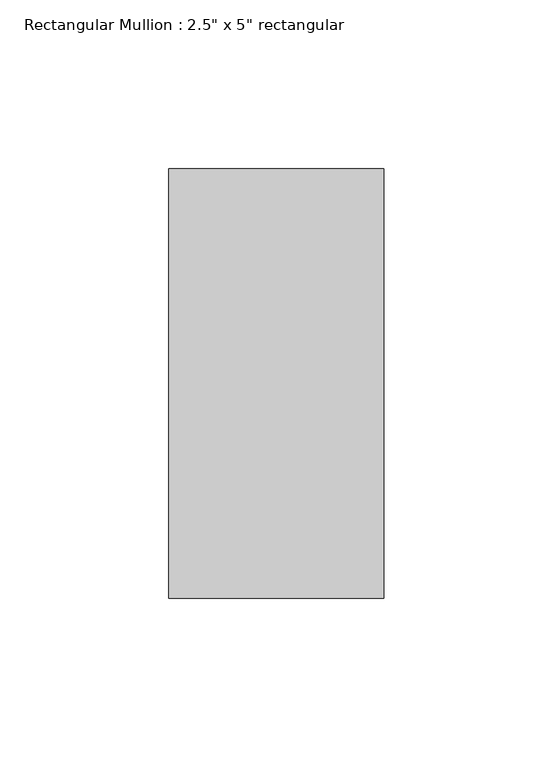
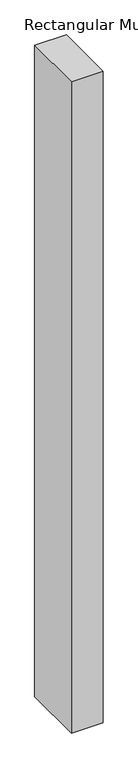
"""IFC4 building model written with IfcOpenShell, lengths in millimetres: member geometry."""

from ifc_helpers import new_model, si_unit, frame, origin, place, context, project, spatial, polyline, outline, extrude, source, transform, mapped, element, save


def member_79cc3911(model_context):
    return source(origin(), model_context, "Body", "SweptSolid", [
        extrude(outline(polyline([(0.0, 63.5), (0.0, -63.5), (-63.5, -63.5), (-63.5, 63.5), (0.0, 63.5)])), frame((0.0, 0.0, -1377.95), z_axis=(0.0, 0.0, 1.0), x_axis=(1.0, 0.0, 0.0)), (0.0, 0.0, 1.0), 1377.95),
    ])


if __name__ == "__main__":
    model = new_model("IFC4")
    model_context = context("Model", 3, world=origin())
    ifc_project = project(units=[si_unit("LENGTHUNIT", "METRE", prefix="MILLI")], contexts=[model_context])
    site = spatial("IfcSite", under=ifc_project)
    building = spatial("IfcBuilding", under=site)
    placement = place(None, origin())
    member_shape = member_79cc3911(model_context)
    element("IfcMember", 1, ObjectType="Rectangular Mullion : 2.5\" x 5\" rectangular", at=placement, inside=building, context=model_context, shape_type="MappedRepresentation", body=[
        mapped(member_shape, transform((0.0, 0.0, 0.0), x_axis=(1.0, 0.0, 0.0), y_axis=(0.0, 1.0, 0.0), z_axis=(0.0, 0.0, 1.0))),
    ])
    save(model, "model.ifc")
